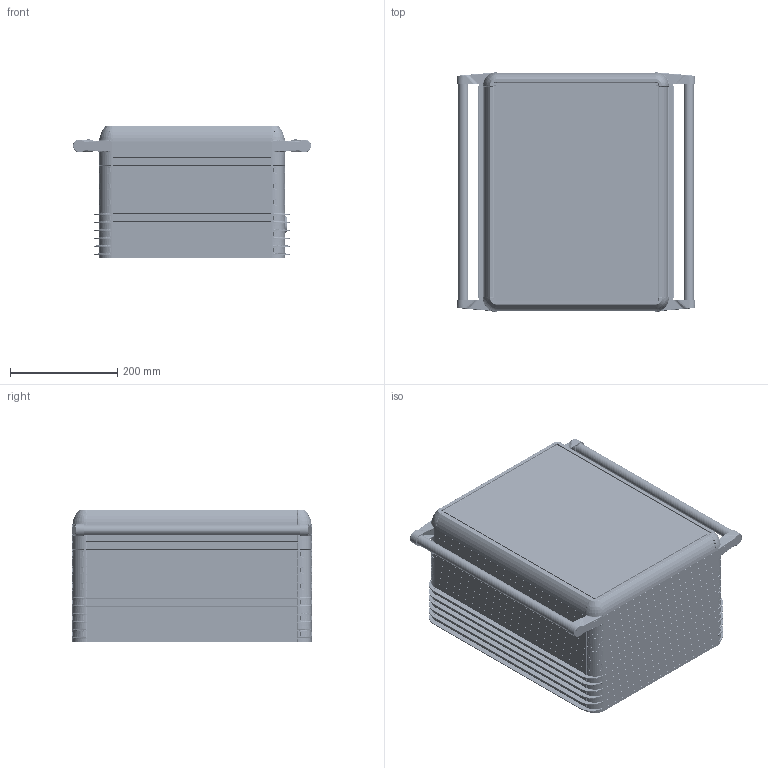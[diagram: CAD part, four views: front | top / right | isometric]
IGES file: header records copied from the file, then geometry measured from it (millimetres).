
Start section: SolidWorks IGES file using analytic representation for surfaces
Global section: file name: D:\PANO_STEP\1591\1591 datalar\1591-0207.IGS; native system: SolidWorks 2022; preprocessor: SolidWorks 2022; author: User; date: 220425.130520; units: millimetre
Bounding box: 444.62 x 447 x 247.69 mm (x, y, z)
Surface area: 2521619.7 mm2 (no closed solid volume)
Topology: 0 solids, 0 shells, 15024 faces, 123402 edges, 123032 vertices
Faces by surface type: bspline 10038, revolution 4986
